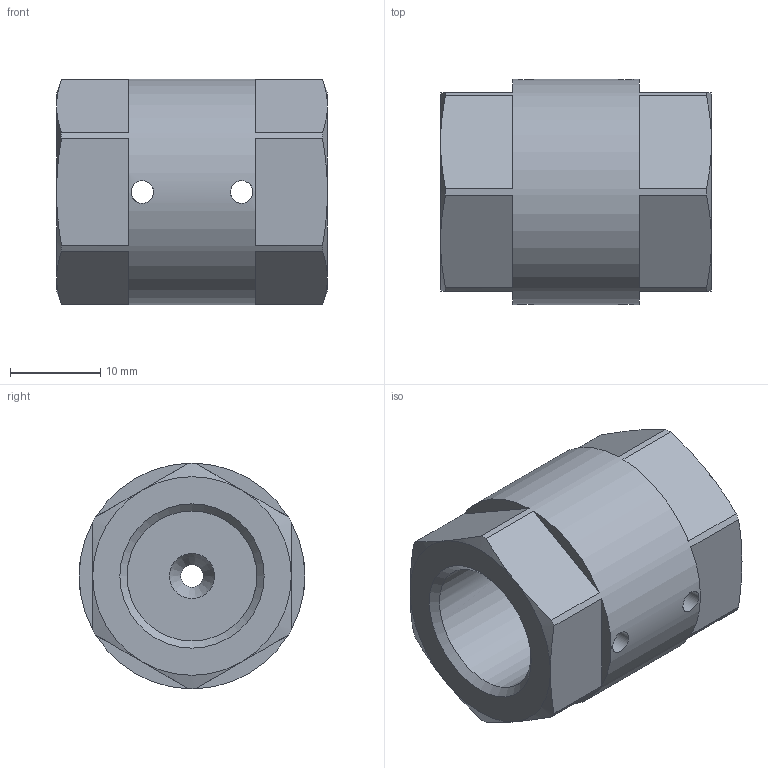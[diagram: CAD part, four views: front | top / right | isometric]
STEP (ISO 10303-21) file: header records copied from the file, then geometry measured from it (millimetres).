
FILE_DESCRIPTION(/* description */ (''),/* implementation_level */ '2;1');
FILE_NAME(/* name */ 'FIT.STR.M16.10000.stp',/* time_stamp */ '2026-07-09T21:52:32+02:00',/* author */ ('janos'),/* organization */ (''),/* preprocessor_version */ 'ST-DEVELOPER v19.2',/* originating_system */ 'Autodesk Inventor 2024',/* authorisation */ '');
FILE_SCHEMA (('AUTOMOTIVE_DESIGN { 1 0 10303 214 3 1 1 }'));
Length unit declared in the file: millimetre
Products named in the file (1): 16.1-4.1600
Bounding box: 30 x 25 x 25 mm (x, y, z)
Volume: 9784.7 mm3; surface area: 4393.3 mm2
Topology: 1 solids, 1 shells, 52 faces, 142 edges, 92 vertices
Faces by surface type: plane 28, cone 16, cylinder 8
Full cylindrical faces by diameter (mm): 2.5 x5, 14.376 x2, 25 x1
Entity records: 1929 total; most frequent: CARTESIAN_POINT 609, ORIENTED_EDGE 284, DIRECTION 256, EDGE_CURVE 142, AXIS2_PLACEMENT_3D 103, VERTEX_POINT 92, EDGE_LOOP 62, FACE_OUTER_BOUND 52
